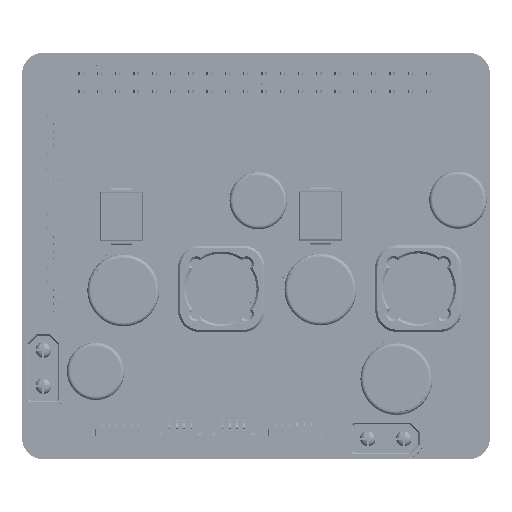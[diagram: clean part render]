
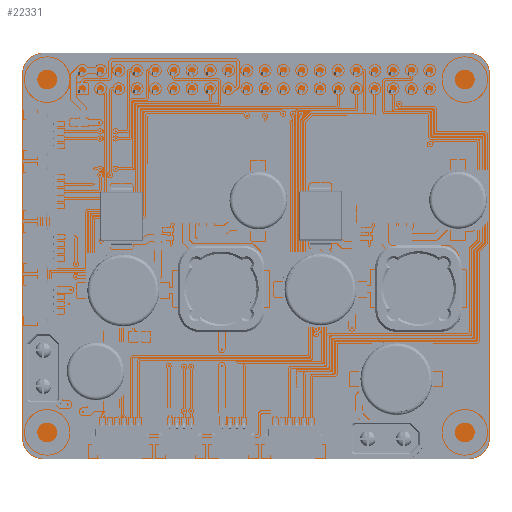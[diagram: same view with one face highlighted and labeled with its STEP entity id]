
A CAD part, top view. The second image highlights one B-rep face of the part: STEP entity #22331.
In plain terms, the highlighted planar face has unit normal (0, 0, 1).
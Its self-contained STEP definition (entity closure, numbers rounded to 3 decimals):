
#22331=ADVANCED_FACE('',(#43838),#43839,.T.);
#43838=FACE_OUTER_BOUND('',#65376,.T.);
#43839=PLANE('',#65377);
#65376=EDGE_LOOP('',(#151882,#151883,#151884,#151885,#151886,#151887,#151888,#151889));
#65377=AXIS2_PLACEMENT_3D('',#151890,#151891,#151892);
#151882=ORIENTED_EDGE('',*,*,#180934,.T.);
#151883=ORIENTED_EDGE('',*,*,#180935,.T.);
#151884=ORIENTED_EDGE('',*,*,#180936,.T.);
#151885=ORIENTED_EDGE('',*,*,#180937,.T.);
#151886=ORIENTED_EDGE('',*,*,#180938,.T.);
#151887=ORIENTED_EDGE('',*,*,#180939,.T.);
#151888=ORIENTED_EDGE('',*,*,#180940,.T.);
#151889=ORIENTED_EDGE('',*,*,#180941,.T.);
#151890=CARTESIAN_POINT('',(32.5,28.25,1.53));
#151891=DIRECTION('',(0.0,0.0,1.0));
#151892=DIRECTION('',(1.0,0.0,0.0));
#180934=EDGE_CURVE('',#228324,#228325,#228326,.T.);
#180935=EDGE_CURVE('',#228325,#228327,#228328,.T.);
#180936=EDGE_CURVE('',#228327,#228329,#228330,.T.);
#180937=EDGE_CURVE('',#228329,#228331,#228332,.T.);
#180938=EDGE_CURVE('',#228331,#228333,#228334,.T.);
#180939=EDGE_CURVE('',#228333,#228335,#228336,.T.);
#180940=EDGE_CURVE('',#228335,#228337,#228338,.T.);
#180941=EDGE_CURVE('',#228337,#228324,#228339,.T.);
#228324=VERTEX_POINT('',#296802);
#228325=VERTEX_POINT('',#296803);
#228326=LINE('',#296804,#296805);
#228327=VERTEX_POINT('',#296806);
#228328=CIRCLE('',#296807,3.0);
#228329=VERTEX_POINT('',#296808);
#228330=LINE('',#296809,#296810);
#228331=VERTEX_POINT('',#296811);
#228332=CIRCLE('',#296812,3.0);
#228333=VERTEX_POINT('',#296813);
#228334=LINE('',#296814,#296815);
#228335=VERTEX_POINT('',#296816);
#228336=CIRCLE('',#296817,3.0);
#228337=VERTEX_POINT('',#296818);
#228338=LINE('',#296819,#296820);
#228339=CIRCLE('',#296821,3.0);
#296802=CARTESIAN_POINT('',(62.0,56.5,1.53));
#296803=CARTESIAN_POINT('',(3.0,56.5,1.53));
#296804=CARTESIAN_POINT('',(32.5,56.5,1.53));
#296805=VECTOR('',#339042,1.0);
#296806=CARTESIAN_POINT('',(0.0,53.5,1.53));
#296807=AXIS2_PLACEMENT_3D('',#339043,#339044,#339045);
#296808=CARTESIAN_POINT('',(0.0,3.0,1.53));
#296809=CARTESIAN_POINT('',(0.0,28.25,1.53));
#296810=VECTOR('',#339046,1.0);
#296811=CARTESIAN_POINT('',(3.0,0.0,1.53));
#296812=AXIS2_PLACEMENT_3D('',#339047,#339048,#339049);
#296813=CARTESIAN_POINT('',(62.0,0.0,1.53));
#296814=CARTESIAN_POINT('',(32.5,0.0,1.53));
#296815=VECTOR('',#339050,1.0);
#296816=CARTESIAN_POINT('',(65.0,3.0,1.53));
#296817=AXIS2_PLACEMENT_3D('',#339051,#339052,#339053);
#296818=CARTESIAN_POINT('',(65.0,53.5,1.53));
#296819=CARTESIAN_POINT('',(65.0,28.25,1.53));
#296820=VECTOR('',#339054,1.0);
#296821=AXIS2_PLACEMENT_3D('',#339055,#339056,#339057);
#339042=DIRECTION('',(-1.0,0.0,0.0));
#339043=CARTESIAN_POINT('',(3.0,53.5,1.53));
#339044=DIRECTION('',(0.0,-0.0,1.0));
#339045=DIRECTION('',(0.0,1.0,0.0));
#339046=DIRECTION('',(0.0,-1.0,0.0));
#339047=CARTESIAN_POINT('',(3.0,3.0,1.53));
#339048=DIRECTION('',(0.0,0.0,1.0));
#339049=DIRECTION('',(-1.0,0.0,0.0));
#339050=DIRECTION('',(1.0,0.0,0.0));
#339051=CARTESIAN_POINT('',(62.0,3.0,1.53));
#339052=DIRECTION('',(0.0,0.0,1.0));
#339053=DIRECTION('',(0.0,-1.0,0.0));
#339054=DIRECTION('',(0.0,1.0,0.0));
#339055=CARTESIAN_POINT('',(62.0,53.5,1.53));
#339056=DIRECTION('',(0.0,0.0,1.0));
#339057=DIRECTION('',(1.0,0.0,0.0));
